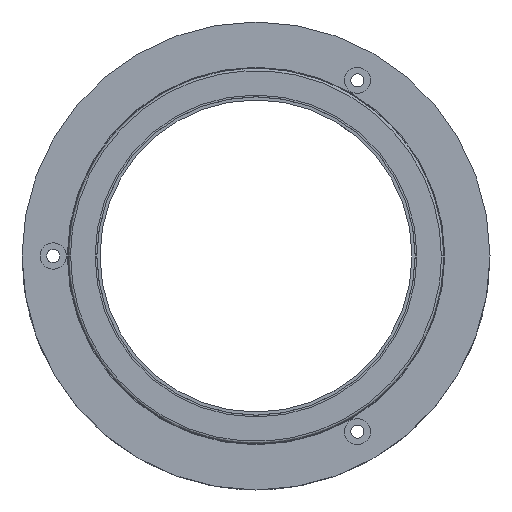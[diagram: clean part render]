
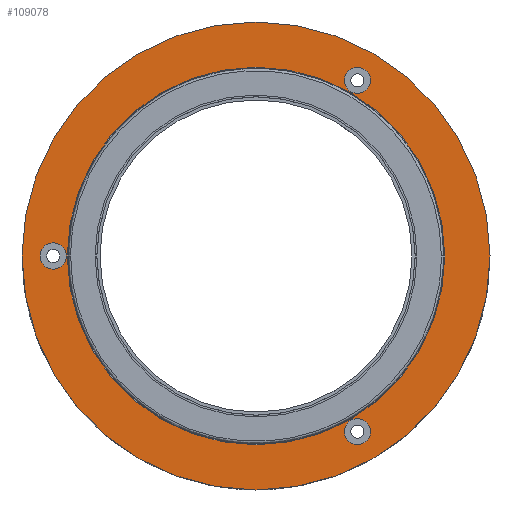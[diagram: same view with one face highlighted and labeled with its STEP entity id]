
A CAD part, left-side view. The second image highlights one B-rep face of the part: STEP entity #109078.
In plain terms, the highlighted planar face has unit normal (-1, 0, 0).
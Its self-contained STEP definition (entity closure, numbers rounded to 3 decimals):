
#2450 = DIRECTION ( 'NONE',  ( 0., -1., 0. ) ) ;
#2903 = CARTESIAN_POINT ( 'NONE',  ( 2.8, -14.15, -28.146 ) ) ;
#4286 = CIRCLE ( 'NONE', #28028, 37.5 ) ;
#4998 = CARTESIAN_POINT ( 'NONE',  ( 2.8, 37.5, 0. ) ) ;
#5073 = ORIENTED_EDGE ( 'NONE', *, *, #71597, .T. ) ;
#7882 = CARTESIAN_POINT ( 'NONE',  ( 2.8, 0., 0. ) ) ;
#8429 = CARTESIAN_POINT ( 'NONE',  ( 2.8, -14.15, 28.146 ) ) ;
#9724 = EDGE_CURVE ( 'NONE', #56846, #78975, #81896, .T. ) ;
#12539 = AXIS2_PLACEMENT_3D ( 'NONE', #61185, #25063, #15712 ) ;
#13142 = EDGE_LOOP ( 'NONE', ( #83499, #84419 ) ) ;
#13778 = VERTEX_POINT ( 'NONE', #8429 ) ;
#14921 = CARTESIAN_POINT ( 'NONE',  ( 2.8, -16.25, -28.146 ) ) ;
#14966 = EDGE_CURVE ( 'NONE', #114849, #33208, #4286, .T. ) ;
#15712 = DIRECTION ( 'NONE',  ( 0., 1., 0. ) ) ;
#15915 = FACE_OUTER_BOUND ( 'NONE', #112075, .T. ) ;
#16097 = CARTESIAN_POINT ( 'NONE',  ( 2.8, -27.5, 0. ) ) ;
#17125 = EDGE_CURVE ( 'NONE', #80495, #63367, #109801, .T. ) ;
#17219 = DIRECTION ( 'NONE',  ( 1., 0., 0. ) ) ;
#17309 = FACE_BOUND ( 'NONE', #71105, .T. ) ;
#20307 = VERTEX_POINT ( 'NONE', #112036 ) ;
#20392 = CARTESIAN_POINT ( 'NONE',  ( 2.8, 27.5, 0. ) ) ;
#20488 = DIRECTION ( 'NONE',  ( -1., 0., 0. ) ) ;
#21084 = EDGE_LOOP ( 'NONE', ( #71661, #5073 ) ) ;
#21618 = CIRCLE ( 'NONE', #29050, 37.5 ) ;
#25063 = DIRECTION ( 'NONE',  ( 1., 0., 0. ) ) ;
#27013 = ORIENTED_EDGE ( 'NONE', *, *, #109306, .T. ) ;
#28028 = AXIS2_PLACEMENT_3D ( 'NONE', #40042, #114565, #68005 ) ;
#28427 = CARTESIAN_POINT ( 'NONE',  ( 2.8, 32.5, 0. ) ) ;
#29050 = AXIS2_PLACEMENT_3D ( 'NONE', #96759, #42405, #105628 ) ;
#30704 = AXIS2_PLACEMENT_3D ( 'NONE', #28427, #74250, #110698 ) ;
#33208 = VERTEX_POINT ( 'NONE', #77552 ) ;
#36275 = CARTESIAN_POINT ( 'NONE',  ( 2.8, 30.4, 0. ) ) ;
#37207 = EDGE_CURVE ( 'NONE', #78975, #56846, #70015, .T. ) ;
#37219 = CARTESIAN_POINT ( 'NONE',  ( 2.8, -18.35, -28.146 ) ) ;
#39172 = PLANE ( 'NONE',  #99777 ) ;
#39313 = CIRCLE ( 'NONE', #90786, 27.5 ) ;
#39793 = DIRECTION ( 'NONE',  ( 1., 0., 0. ) ) ;
#40042 = CARTESIAN_POINT ( 'NONE',  ( 2.8, 0., 0. ) ) ;
#40483 = CARTESIAN_POINT ( 'NONE',  ( 2.8, 34.6, 0. ) ) ;
#40879 = ORIENTED_EDGE ( 'NONE', *, *, #41792, .T. ) ;
#41792 = EDGE_CURVE ( 'NONE', #63367, #80495, #39313, .T. ) ;
#42405 = DIRECTION ( 'NONE',  ( -1., 0., 0. ) ) ;
#42910 = CARTESIAN_POINT ( 'NONE',  ( 2.8, -16.25, 28.146 ) ) ;
#47774 = EDGE_CURVE ( 'NONE', #64832, #100429, #63072, .T. ) ;
#47818 = FACE_BOUND ( 'NONE', #13142, .T. ) ;
#49302 = DIRECTION ( 'NONE',  ( 0., -1., 0. ) ) ;
#53806 = EDGE_LOOP ( 'NONE', ( #118773, #106197 ) ) ;
#56138 = AXIS2_PLACEMENT_3D ( 'NONE', #14921, #79457, #60016 ) ;
#56846 = VERTEX_POINT ( 'NONE', #36275 ) ;
#60016 = DIRECTION ( 'NONE',  ( 0., -1., 0. ) ) ;
#61185 = CARTESIAN_POINT ( 'NONE',  ( 2.8, 0., 0. ) ) ;
#62757 = DIRECTION ( 'NONE',  ( 0., -1., 0. ) ) ;
#63072 = CIRCLE ( 'NONE', #56138, 2.1 ) ;
#63367 = VERTEX_POINT ( 'NONE', #20392 ) ;
#64028 = CARTESIAN_POINT ( 'NONE',  ( 2.8, 32.5, 0. ) ) ;
#64706 = EDGE_CURVE ( 'NONE', #100429, #64832, #108904, .T. ) ;
#64832 = VERTEX_POINT ( 'NONE', #37219 ) ;
#68005 = DIRECTION ( 'NONE',  ( 0., 1., 0. ) ) ;
#69612 = FACE_BOUND ( 'NONE', #53806, .T. ) ;
#70015 = CIRCLE ( 'NONE', #30704, 2.1 ) ;
#71105 = EDGE_LOOP ( 'NONE', ( #40879, #99205 ) ) ;
#71597 = EDGE_CURVE ( 'NONE', #13778, #20307, #110242, .T. ) ;
#71661 = ORIENTED_EDGE ( 'NONE', *, *, #98866, .T. ) ;
#72125 = AXIS2_PLACEMENT_3D ( 'NONE', #64028, #81103, #109022 ) ;
#74250 = DIRECTION ( 'NONE',  ( 1., 0., 0. ) ) ;
#77552 = CARTESIAN_POINT ( 'NONE',  ( 2.8, -37.5, 0. ) ) ;
#78975 = VERTEX_POINT ( 'NONE', #40483 ) ;
#79457 = DIRECTION ( 'NONE',  ( 1., 0., 0. ) ) ;
#80495 = VERTEX_POINT ( 'NONE', #16097 ) ;
#81103 = DIRECTION ( 'NONE',  ( 1., 0., 0. ) ) ;
#81896 = CIRCLE ( 'NONE', #72125, 2.1 ) ;
#82339 = CIRCLE ( 'NONE', #106162, 2.1 ) ;
#83499 = ORIENTED_EDGE ( 'NONE', *, *, #47774, .T. ) ;
#84419 = ORIENTED_EDGE ( 'NONE', *, *, #64706, .T. ) ;
#90744 = DIRECTION ( 'NONE',  ( 1., 0., 0. ) ) ;
#90786 = AXIS2_PLACEMENT_3D ( 'NONE', #7882, #17219, #100394 ) ;
#93372 = ORIENTED_EDGE ( 'NONE', *, *, #14966, .T. ) ;
#95927 = CARTESIAN_POINT ( 'NONE',  ( 2.8, 27.5, 0. ) ) ;
#96759 = CARTESIAN_POINT ( 'NONE',  ( 2.8, 0., 0. ) ) ;
#98117 = CARTESIAN_POINT ( 'NONE',  ( 2.8, -16.25, -28.146 ) ) ;
#98577 = AXIS2_PLACEMENT_3D ( 'NONE', #104241, #39793, #2450 ) ;
#98866 = EDGE_CURVE ( 'NONE', #20307, #13778, #82339, .T. ) ;
#99205 = ORIENTED_EDGE ( 'NONE', *, *, #17125, .T. ) ;
#99777 = AXIS2_PLACEMENT_3D ( 'NONE', #95927, #20488, #49302 ) ;
#100394 = DIRECTION ( 'NONE',  ( 0., 1., 0. ) ) ;
#100429 = VERTEX_POINT ( 'NONE', #2903 ) ;
#104241 = CARTESIAN_POINT ( 'NONE',  ( 2.8, -16.25, 28.146 ) ) ;
#105628 = DIRECTION ( 'NONE',  ( 0., 1., 0. ) ) ;
#106162 = AXIS2_PLACEMENT_3D ( 'NONE', #42910, #90744, #62757 ) ;
#106197 = ORIENTED_EDGE ( 'NONE', *, *, #37207, .T. ) ;
#107376 = DIRECTION ( 'NONE',  ( 1., 0., 0. ) ) ;
#108298 = AXIS2_PLACEMENT_3D ( 'NONE', #98117, #107376, #116674 ) ;
#108904 = CIRCLE ( 'NONE', #108298, 2.1 ) ;
#109022 = DIRECTION ( 'NONE',  ( 0., -1., 0. ) ) ;
#109078 = ADVANCED_FACE ( 'NONE', ( #15915, #17309, #111633, #47818, #69612 ), #39172, .T. ) ;
#109306 = EDGE_CURVE ( 'NONE', #33208, #114849, #21618, .T. ) ;
#109801 = CIRCLE ( 'NONE', #12539, 27.5 ) ;
#110242 = CIRCLE ( 'NONE', #98577, 2.1 ) ;
#110698 = DIRECTION ( 'NONE',  ( 0., -1., 0. ) ) ;
#111633 = FACE_BOUND ( 'NONE', #21084, .T. ) ;
#112036 = CARTESIAN_POINT ( 'NONE',  ( 2.8, -18.35, 28.146 ) ) ;
#112075 = EDGE_LOOP ( 'NONE', ( #93372, #27013 ) ) ;
#114565 = DIRECTION ( 'NONE',  ( -1., 0., 0. ) ) ;
#114849 = VERTEX_POINT ( 'NONE', #4998 ) ;
#116674 = DIRECTION ( 'NONE',  ( 0., -1., 0. ) ) ;
#118773 = ORIENTED_EDGE ( 'NONE', *, *, #9724, .T. ) ;
